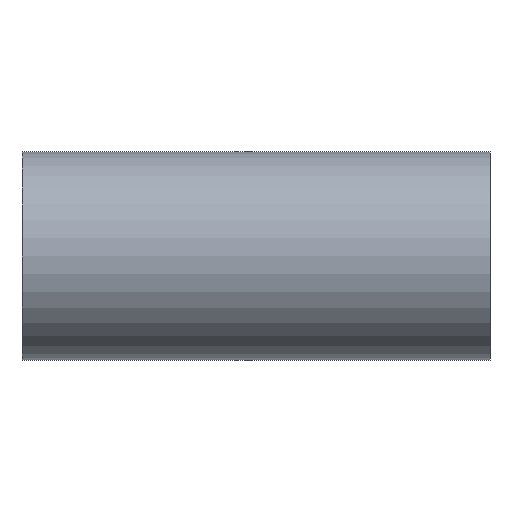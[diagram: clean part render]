
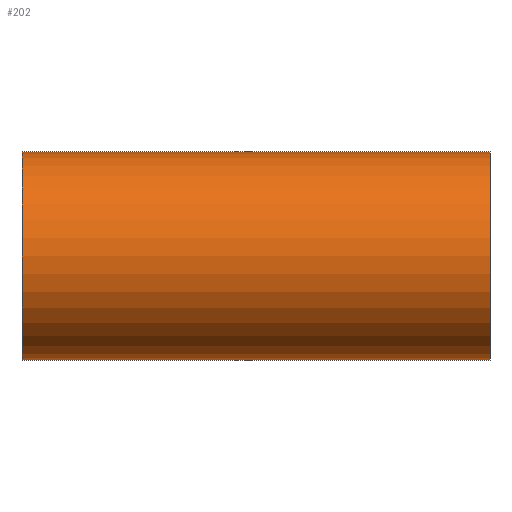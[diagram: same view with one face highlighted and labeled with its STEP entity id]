
A CAD part, front view. The second image highlights one B-rep face of the part: STEP entity #202.
In plain terms, the highlighted cylindrical face has radius 38.1 mm (diameter 76.2 mm), a partial arc.
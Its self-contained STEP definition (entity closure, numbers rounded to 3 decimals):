
#202 = ADVANCED_FACE ( 'NONE', ( #781 ), #841, .T. ) ;
#227 = ORIENTED_EDGE ( 'NONE', *, *, #260, .T. ) ;
#252 = VERTEX_POINT ( 'NONE', #499 ) ;
#260 = EDGE_CURVE ( 'NONE', #1125, #559, #1320, .T. ) ;
#289 = DIRECTION ( 'NONE',  ( 1., 0., 0. ) ) ;
#314 = VECTOR ( 'NONE', #1030, 1000. ) ;
#418 = EDGE_CURVE ( 'NONE', #580, #252, #935, .T. ) ;
#499 = CARTESIAN_POINT ( 'NONE',  ( 85.7, 0., 38.1 ) ) ;
#502 = EDGE_LOOP ( 'NONE', ( #1370, #227, #601, #585 ) ) ;
#559 = VERTEX_POINT ( 'NONE', #638 ) ;
#579 = DIRECTION ( 'NONE',  ( 1., 0., 0. ) ) ;
#580 = VERTEX_POINT ( 'NONE', #1235 ) ;
#585 = ORIENTED_EDGE ( 'NONE', *, *, #418, .T. ) ;
#601 = ORIENTED_EDGE ( 'NONE', *, *, #1218, .T. ) ;
#638 = CARTESIAN_POINT ( 'NONE',  ( -85.7, 0., -38.1 ) ) ;
#665 = CARTESIAN_POINT ( 'NONE',  ( -85.7, 0., 38.1 ) ) ;
#684 = EDGE_CURVE ( 'NONE', #1125, #252, #1136, .T. ) ;
#747 = AXIS2_PLACEMENT_3D ( 'NONE', #831, #836, #848 ) ;
#781 = FACE_OUTER_BOUND ( 'NONE', #502, .T. ) ;
#831 = CARTESIAN_POINT ( 'NONE',  ( -85.7, 0., 0. ) ) ;
#836 = DIRECTION ( 'NONE',  ( 1., 0., 0. ) ) ;
#841 = CYLINDRICAL_SURFACE ( 'NONE', #946, 38.1 ) ;
#848 = DIRECTION ( 'NONE',  ( 0., 0., -1. ) ) ;
#865 = VECTOR ( 'NONE', #289, 1000. ) ;
#885 = CARTESIAN_POINT ( 'NONE',  ( -85.7, 0., 0. ) ) ;
#924 = CARTESIAN_POINT ( 'NONE',  ( -85.7, 0., -38.1 ) ) ;
#935 = CIRCLE ( 'NONE', #994, 38.1 ) ;
#946 = AXIS2_PLACEMENT_3D ( 'NONE', #885, #579, #1166 ) ;
#994 = AXIS2_PLACEMENT_3D ( 'NONE', #1371, #1252, #1375 ) ;
#1030 = DIRECTION ( 'NONE',  ( 1., 0., 0. ) ) ;
#1122 = LINE ( 'NONE', #924, #865 ) ;
#1125 = VERTEX_POINT ( 'NONE', #665 ) ;
#1129 = CARTESIAN_POINT ( 'NONE',  ( -85.7, 0., 38.1 ) ) ;
#1136 = LINE ( 'NONE', #1129, #314 ) ;
#1166 = DIRECTION ( 'NONE',  ( 0., 0., -1. ) ) ;
#1218 = EDGE_CURVE ( 'NONE', #559, #580, #1122, .T. ) ;
#1235 = CARTESIAN_POINT ( 'NONE',  ( 85.7, 0., -38.1 ) ) ;
#1252 = DIRECTION ( 'NONE',  ( -1., 0., 0. ) ) ;
#1320 = CIRCLE ( 'NONE', #747, 38.1 ) ;
#1370 = ORIENTED_EDGE ( 'NONE', *, *, #684, .F. ) ;
#1371 = CARTESIAN_POINT ( 'NONE',  ( 85.7, 0., 0. ) ) ;
#1375 = DIRECTION ( 'NONE',  ( 0., 0., -1. ) ) ;
